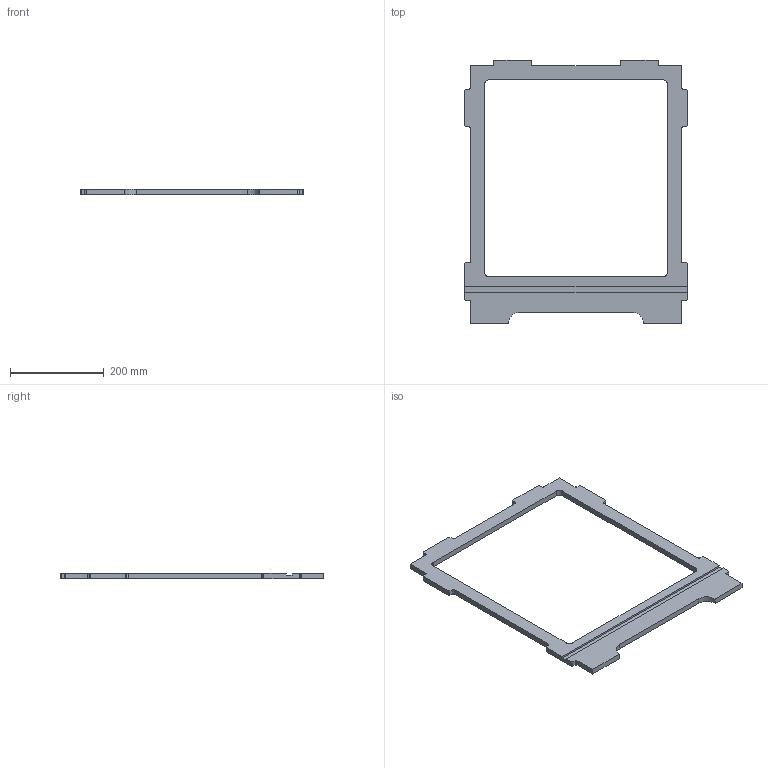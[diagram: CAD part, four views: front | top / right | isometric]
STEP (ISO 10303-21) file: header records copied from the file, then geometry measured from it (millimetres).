
FILE_DESCRIPTION(/* description */ (''),/* implementation_level */ '2;1');
FILE_NAME(/* name */ 'E:\panel1.stp',/* time_stamp */ '2015-03-19T21:39:33+08:00',/* author */ ('s41632'),/* organization */ (''),/* preprocessor_version */ 'ST-DEVELOPER v15.2',/* originating_system */ 'Autodesk Inventor 2014',/* authorisation */ '');
FILE_SCHEMA (('AUTOMOTIVE_DESIGN { 1 0 10303 214 3 1 1 }'));
Length unit declared in the file: millimetre
Products named in the file (1): panel1
Bounding box: 474 x 562 x 12 mm (x, y, z)
Volume: 968417.6 mm3; surface area: 213872.1 mm2
Topology: 1 solids, 1 shells, 70 faces, 204 edges, 136 vertices
Faces by surface type: plane 52, cylinder 18
Entity records: 2332 total; most frequent: CARTESIAN_POINT 411, ORIENTED_EDGE 408, DIRECTION 382, EDGE_CURVE 204, LINE 168, VECTOR 168, VERTEX_POINT 136, AXIS2_PLACEMENT_3D 107
